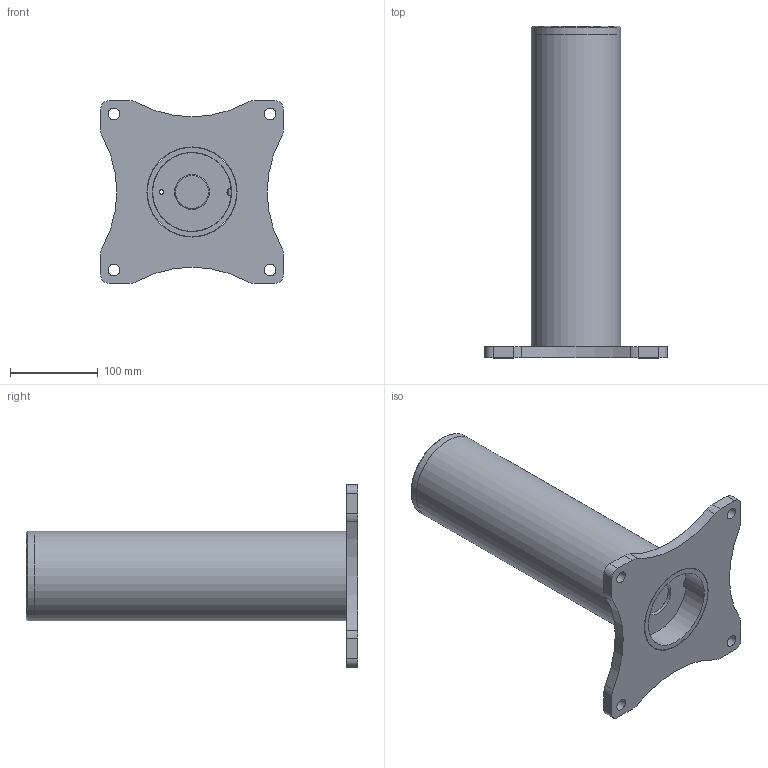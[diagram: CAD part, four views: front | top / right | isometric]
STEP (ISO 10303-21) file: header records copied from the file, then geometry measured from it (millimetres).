
FILE_DESCRIPTION (( 'STEP AP214' ), '1' );
FILE_NAME ('OZPED3.STEP', '2025-04-01T13:54:57', ( '' ), ( '' ), 'SwSTEP 2.0', 'SolidWorks 2023', '' );
FILE_SCHEMA (( 'AUTOMOTIVE_DESIGN' ));
Length unit declared in the file: inch
Products named in the file (7): SXB7005; 300-0200; 300-0040; 302-0300; 302-0200; OZPED3; 300-0140
Assembly tree (6 placements, depth 3):
  OZPED3
    300-0040
      300-0200
      300-0140
      302-0300
      302-0200
    SXB7005
Bounding box: 207.96 x 377.82 x 207.96 mm (x, y, z)
Volume: 1215250 mm3; surface area: 366503.8 mm2
Topology: 5 solids, 5 shells, 64 faces, 148 edges, 96 vertices
Faces by surface type: cylinder 33, plane 23, cone 7, torus 1
Full cylindrical faces by diameter (mm): 5.08 x1, 13.487 x4, 38.1 x1, 39.37 x1, 63.5 x1, 77.47 x1, 89.256 x1, 90.119 x1, 101.6 x2, 102.616 x1
Entity records: 2027 total; most frequent: CARTESIAN_POINT 349, DIRECTION 338, ORIENTED_EDGE 250, AXIS2_PLACEMENT_3D 145, EDGE_CURVE 125, EDGE_LOOP 103, VERTEX_POINT 94, FACE_OUTER_BOUND 77
